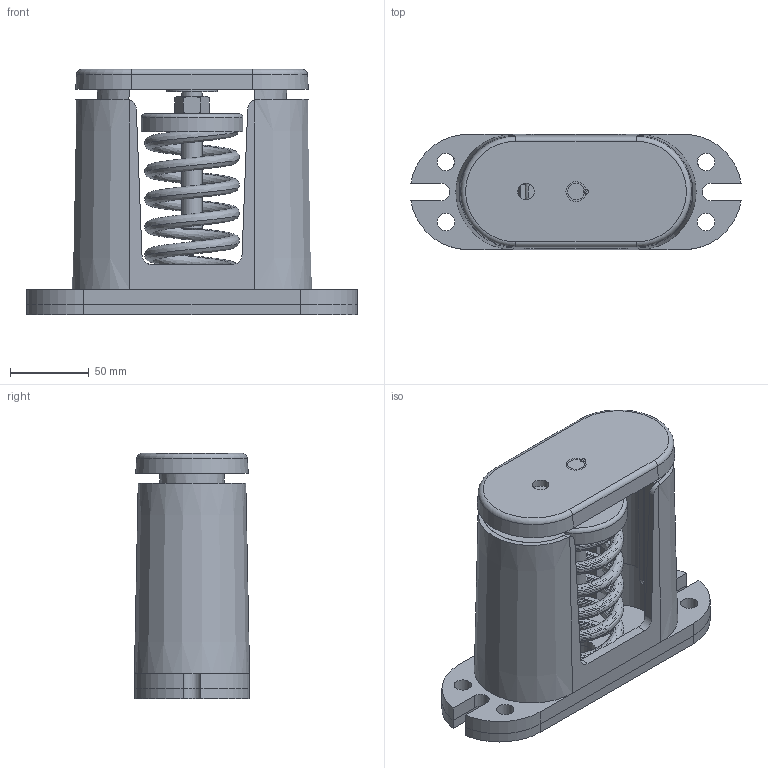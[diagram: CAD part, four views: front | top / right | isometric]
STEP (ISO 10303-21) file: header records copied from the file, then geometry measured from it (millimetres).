
FILE_DESCRIPTION(/* description */ (''),/* implementation_level */ '2;1');
FILE_NAME(/* name */ 'C:\001_Work\Designs\C MOUNTS\CI-B, B2\CI-B2-680.stp',/* time_stamp */ '2015-12-10T12:49:13-05:00',/* author */ ('rramoutar'),/* organization */ ('Mason Industries Inc.'),/* preprocessor_version */ 'ST-DEVELOPER v15.6',/* originating_system */ 'Autodesk Inventor 2015',/* authorisation */ '');
FILE_SCHEMA (('CONFIG_CONTROL_DESIGN'));
Length unit declared in the file: inch
Products named in the file (1): CI-B2-680
Bounding box: 209.55 x 73.03 x 155.57 mm (x, y, z)
Volume: 652431.3 mm3; surface area: 211065.1 mm2
Topology: 1 solids, 2 shells, 191 faces, 481 edges, 308 vertices
Faces by surface type: plane 87, cylinder 53, bspline 24, cone 23, torus 4
Full cylindrical faces by diameter (mm): 10.592 x1, 11.112 x8, 12.7 x2, 16.669 x1, 25.4 x2, 31.75 x1, 61.119 x1, 64.914 x1
Entity records: 15795 total; most frequent: CARTESIAN_POINT 11249, ORIENTED_EDGE 902, DIRECTION 839, EDGE_CURVE 451, AXIS2_PLACEMENT_3D 319, VERTEX_POINT 300, EDGE_LOOP 239, LINE 201
